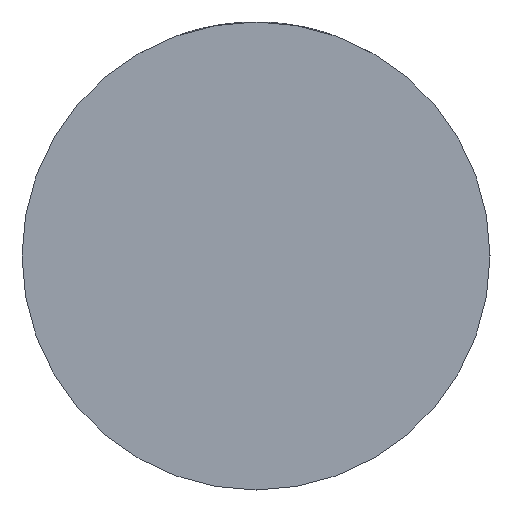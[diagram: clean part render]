
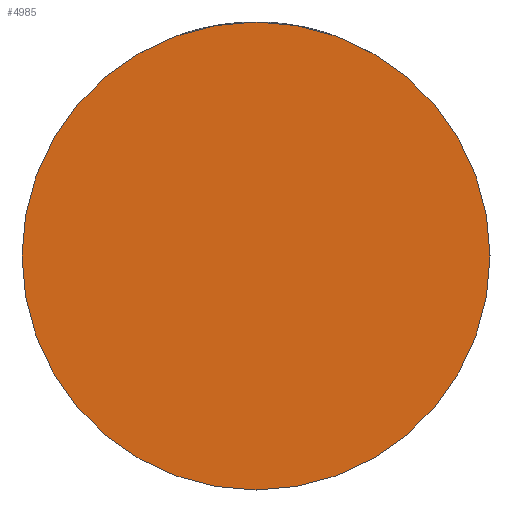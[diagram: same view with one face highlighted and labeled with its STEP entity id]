
A CAD part, front view. The second image highlights one B-rep face of the part: STEP entity #4985.
In plain terms, the highlighted planar face has unit normal (0, -1, 0).
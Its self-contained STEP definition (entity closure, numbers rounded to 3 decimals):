
#643 = CIRCLE ( 'NONE', #4119, 34. ) ;
#1119 = EDGE_CURVE ( 'NONE', #1391, #4050, #3677, .T. ) ;
#1339 = PLANE ( 'NONE',  #5069 ) ;
#1391 = VERTEX_POINT ( 'NONE', #2609 ) ;
#1477 = DIRECTION ( 'NONE',  ( 0., 1., 0. ) ) ;
#1495 = ORIENTED_EDGE ( 'NONE', *, *, #1119, .F. ) ;
#2023 = AXIS2_PLACEMENT_3D ( 'NONE', #5213, #1477, #2729 ) ;
#2157 = FACE_OUTER_BOUND ( 'NONE', #2657, .T. ) ;
#2609 = CARTESIAN_POINT ( 'NONE',  ( 34., -21., 0. ) ) ;
#2657 = EDGE_LOOP ( 'NONE', ( #3944, #1495 ) ) ;
#2729 = DIRECTION ( 'NONE',  ( -1., 0., 0. ) ) ;
#3087 = CARTESIAN_POINT ( 'NONE',  ( 0., -21., 0. ) ) ;
#3510 = CARTESIAN_POINT ( 'NONE',  ( 0., -21., 0. ) ) ;
#3596 = DIRECTION ( 'NONE',  ( 0., 1., 0. ) ) ;
#3677 = CIRCLE ( 'NONE', #2023, 34. ) ;
#3700 = EDGE_CURVE ( 'NONE', #4050, #1391, #643, .T. ) ;
#3944 = ORIENTED_EDGE ( 'NONE', *, *, #3700, .F. ) ;
#4050 = VERTEX_POINT ( 'NONE', #4206 ) ;
#4119 = AXIS2_PLACEMENT_3D ( 'NONE', #3510, #3596, #4855 ) ;
#4206 = CARTESIAN_POINT ( 'NONE',  ( -34., -21., 0. ) ) ;
#4260 = DIRECTION ( 'NONE',  ( 0., -1., 0. ) ) ;
#4756 = DIRECTION ( 'NONE',  ( 1., 0., 0. ) ) ;
#4855 = DIRECTION ( 'NONE',  ( -1., 0., 0. ) ) ;
#4985 = ADVANCED_FACE ( 'NONE', ( #2157 ), #1339, .T. ) ;
#5069 = AXIS2_PLACEMENT_3D ( 'NONE', #3087, #4260, #4756 ) ;
#5213 = CARTESIAN_POINT ( 'NONE',  ( 0., -21., 0. ) ) ;
